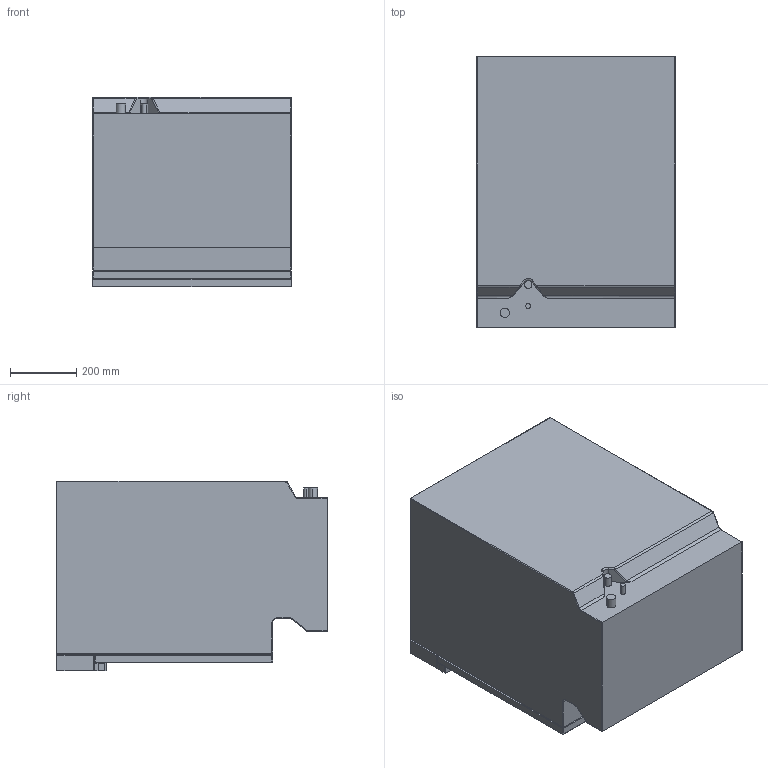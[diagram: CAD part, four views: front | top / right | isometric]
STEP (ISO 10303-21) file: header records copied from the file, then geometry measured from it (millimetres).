
FILE_DESCRIPTION (( 'STEP AP214' ), '1' );
FILE_NAME ('PL820 Serie i Gamma Completa - PANNELLO - i2 plastica.STEP', '2023-03-29T08:37:53', ( '' ), ( '' ), 'SwSTEP 2.0', 'SolidWorks 2021', '' );
FILE_SCHEMA (( 'AUTOMOTIVE_DESIGN' ));
Length unit declared in the file: millimetre
Products named in the file (1): PL820 Serie i Gamma Completa - PANNELLO - i2 plastica
Bounding box: 598 x 818 x 570.1 mm (x, y, z)
Volume: 253192508.4 mm3; surface area: 3499581.8 mm2
Topology: 32 solids, 32 shells, 589 faces, 1370 edges, 852 vertices
Faces by surface type: plane 306, cylinder 185, cone 50, bspline 31, torus 11, sphere 6
Entity records: 17279 total; most frequent: CARTESIAN_POINT 3624, DIRECTION 2789, ORIENTED_EDGE 2728, EDGE_CURVE 1364, AXIS2_PLACEMENT_3D 955, LINE 879, VECTOR 879, VERTEX_POINT 852
